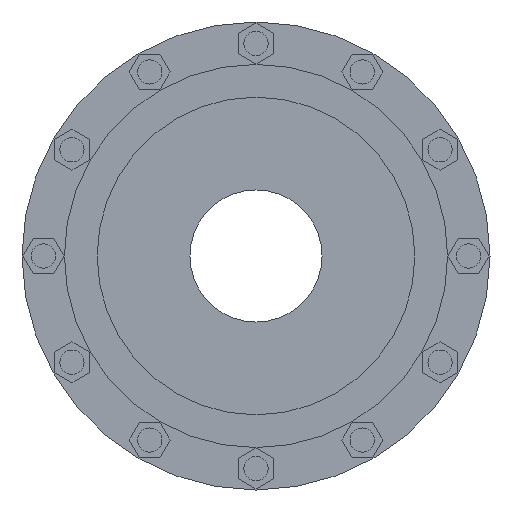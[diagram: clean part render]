
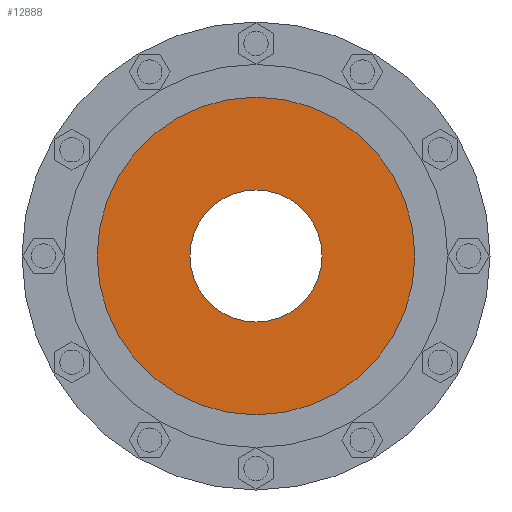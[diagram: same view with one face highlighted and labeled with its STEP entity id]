
A CAD part, left-side view. The second image highlights one B-rep face of the part: STEP entity #12888.
In plain terms, the highlighted planar face has unit normal (-1, 0, 0).
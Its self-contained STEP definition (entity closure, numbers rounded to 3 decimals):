
#12586=CARTESIAN_POINT('',(-317.,0.,0.));
#12587=DIRECTION('',(1.,0.,0.));
#12588=DIRECTION('',(0.,1.,0.));
#12589=AXIS2_PLACEMENT_3D('',#12586,#12587,#12588);
#12665=CARTESIAN_POINT('',(-317.,0.,0.));
#12666=DIRECTION('',(-1.,0.,0.));
#12667=DIRECTION('',(0.,1.,0.));
#12668=AXIS2_PLACEMENT_3D('',#12665,#12666,#12667);
#12670=CARTESIAN_POINT('',(-317.,0.,0.));
#12671=DIRECTION('',(1.,0.,0.));
#12672=DIRECTION('',(0.,1.,0.));
#12673=AXIS2_PLACEMENT_3D('',#12670,#12671,#12672);
#12684=CARTESIAN_POINT('',(-317.,0.,0.));
#12685=DIRECTION('',(-1.,0.,0.));
#12686=DIRECTION('',(0.,1.,0.));
#12687=AXIS2_PLACEMENT_3D('',#12684,#12685,#12686);
#12693=CARTESIAN_POINT('',(-317.,60.,0.));
#12694=CARTESIAN_POINT('',(-317.,-60.,0.));
#12695=VERTEX_POINT('',#12693);
#12696=VERTEX_POINT('',#12694);
#12697=CARTESIAN_POINT('',(-317.,144.25,0.));
#12698=CARTESIAN_POINT('',(-317.,-144.25,0.));
#12699=VERTEX_POINT('',#12697);
#12700=VERTEX_POINT('',#12698);
#12874=CARTESIAN_POINT('',(-317.,0.,0.));
#12875=DIRECTION('',(1.,0.,0.));
#12876=DIRECTION('',(0.,-1.,0.));
#12877=AXIS2_PLACEMENT_3D('',#12874,#12875,#12876);
#12878=PLANE('',#12877);
#12879=ORIENTED_EDGE('',*,*,#12856,.F.);
#12880=ORIENTED_EDGE('',*,*,#12869,.T.);
#12881=EDGE_LOOP('',(#12879,#12880));
#12882=FACE_OUTER_BOUND('',#12881,.F.);
#12883=ORIENTED_EDGE('',*,*,#12734,.F.);
#12885=ORIENTED_EDGE('',*,*,#12884,.T.);
#12886=EDGE_LOOP('',(#12883,#12885));
#12887=FACE_BOUND('',#12886,.F.);
#12888=ADVANCED_FACE('',(#12882,#12887),#12878,.F.);
#12590=CIRCLE('',#12589,60.);
#12669=CIRCLE('',#12668,144.25);
#12674=CIRCLE('',#12673,144.25);
#12688=CIRCLE('',#12687,60.);
#12734=EDGE_CURVE('',#12695,#12696,#12590,.T.);
#12856=EDGE_CURVE('',#12699,#12700,#12669,.T.);
#12869=EDGE_CURVE('',#12699,#12700,#12674,.T.);
#12884=EDGE_CURVE('',#12695,#12696,#12688,.T.);
